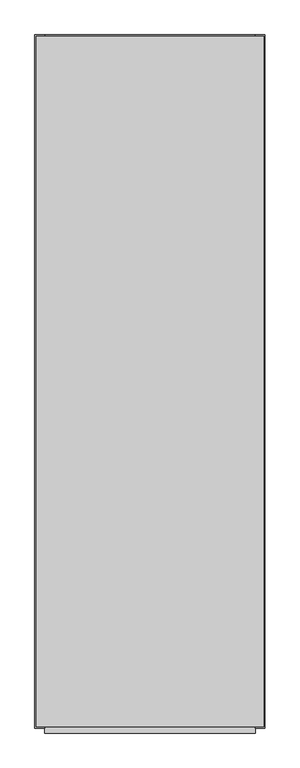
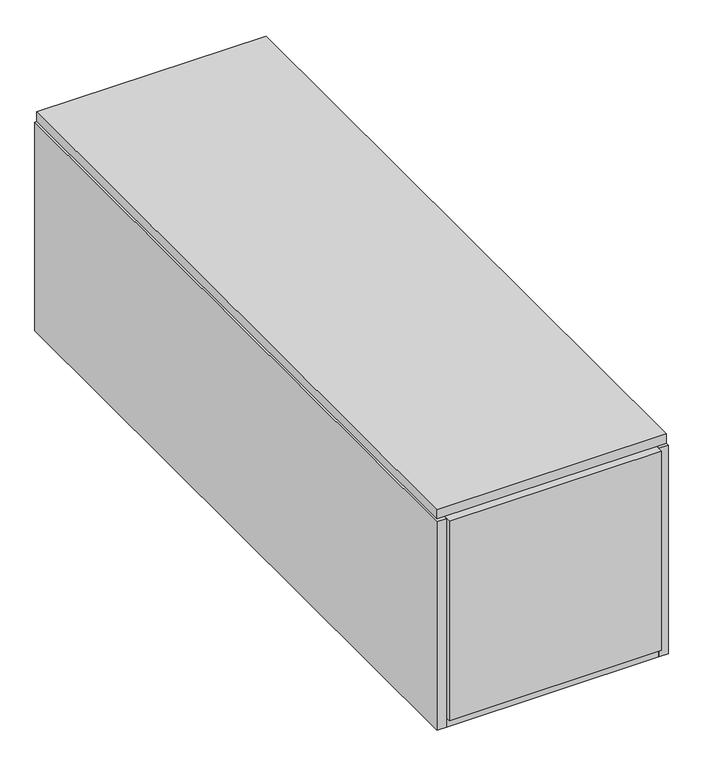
"""IFC4 building model written with IfcOpenShell, lengths in millimetres: proxy geometry, BASYS^OFFICE 3_WARDROBE-PARTS SOLID."""

from ifc_helpers import new_model, si_unit, frame, origin, origin_with_axes, place, context, project, spatial, polyline, outline, extrude, source, transform, mapped, element, save


def generic_models_cb901ea9(model_context):
    return source(origin(), model_context, "Body", "SweptSolid", [
        extrude(outline(polyline([(0.0, 1374.775), (0.0, 0.0), (-19.05, 0.0), (-19.05, 1374.775), (0.0, 1374.775)])), origin_with_axes(), (0.0, 0.0, 1.0), 434.975),
        extrude(outline(polyline([(419.1, 0.0), (419.1, 1374.775), (438.15, 1374.775), (438.15, 0.0), (419.1, 0.0)])), origin_with_axes(), (0.0, 0.0, 1.0), 434.975),
        extrude(outline(polyline([(435.76875, 3.175), (-16.66875, 3.175), (-16.66875, 1372.39375), (435.76875, 1372.39375), (435.76875, 3.175)])), frame((0.0, 0.0, 438.15), z_axis=(0.0, 0.0, 1.0), x_axis=(1.0, 0.0, 0.0)), (0.0, 0.0, 1.0), 19.05),
        extrude(outline(polyline([(419.1, 1374.775), (419.1, 0.0), (0.0, 0.0), (0.0, 1374.775), (419.1, 1374.775)])), origin_with_axes(), (0.0, 0.0, 1.0), 19.05),
        extrude(outline(polyline([(419.1, 19.05), (419.1, -9.525), (0.0, -9.525), (0.0, 19.05), (419.1, 19.05)])), frame((0.0, 0.0, 19.05), z_axis=(0.0, 0.0, 1.0), x_axis=(1.0, 0.0, 0.0)), (0.0, 0.0, 1.0), 415.925),
        extrude(outline(polyline([(0.0, 1355.725), (0.0, 1374.775), (419.1, 1374.775), (419.1, 1355.725), (0.0, 1355.725)])), frame((0.0, 0.0, 19.05), z_axis=(0.0, 0.0, 1.0), x_axis=(1.0, 0.0, 0.0)), (0.0, 0.0, 1.0), 415.925),
    ])


if __name__ == "__main__":
    model = new_model("IFC4")
    model_context = context("Model", 3, world=origin())
    ifc_project = project(units=[si_unit("LENGTHUNIT", "METRE", prefix="MILLI")], contexts=[model_context])
    site = spatial("IfcSite", under=ifc_project)
    building = spatial("IfcBuilding", under=site)
    placement = place(None, origin())
    generic_models_shape = generic_models_cb901ea9(model_context)
    element("IfcBuildingElementProxy", 1, Name="BASYS^OFFICE 3_WARDROBE-PARTS SOLID", ObjectType="BASYS^OFFICE 3_WARDROBE-PARTS SOLID", at=placement, inside=building, context=model_context, shape_type="MappedRepresentation", body=[
        mapped(generic_models_shape, transform((0.0, 0.0, 0.0), x_axis=(1.0, 0.0, 0.0), y_axis=(0.0, 1.0, 0.0), z_axis=(0.0, 0.0, 1.0))),
    ])
    save(model, "model.ifc")
